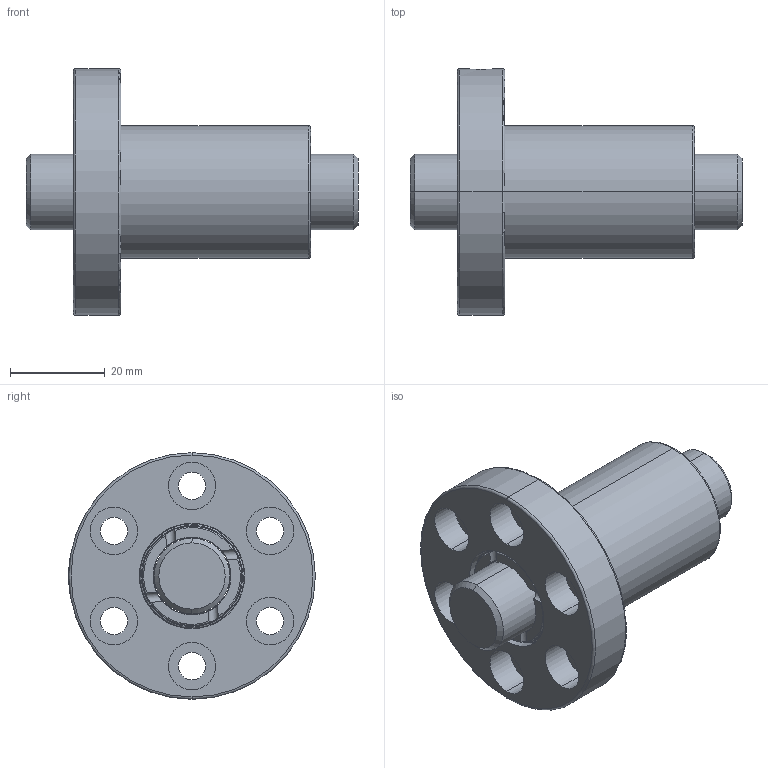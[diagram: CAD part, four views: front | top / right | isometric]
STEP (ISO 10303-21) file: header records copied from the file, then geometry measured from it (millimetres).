
FILE_DESCRIPTION (( 'STEP AP203' ), '1' );
FILE_NAME ('SFZR01605T4N-C.STEP', '2020-06-18T00:54:19', ( '' ), ( '' ), 'SwSTEP 2.0', 'SolidWorks 2013', '' );
FILE_SCHEMA (( 'CONFIG_CONTROL_DESIGN' ));
Length unit declared in the file: millimetre
Products named in the file (1): SFZR01605T4N-C
Bounding box: 70 x 52 x 52 mm (x, y, z)
Volume: 44320.7 mm3; surface area: 18692.6 mm2
Topology: 2 solids, 2 shells, 122 faces, 296 edges, 188 vertices
Faces by surface type: cylinder 66, torus 26, plane 26, cone 4
Entity records: 4655 total; most frequent: CARTESIAN_POINT 1635, DIRECTION 656, ORIENTED_EDGE 592, EDGE_CURVE 296, AXIS2_PLACEMENT_3D 291, VERTEX_POINT 188, CIRCLE 168, EDGE_LOOP 150
